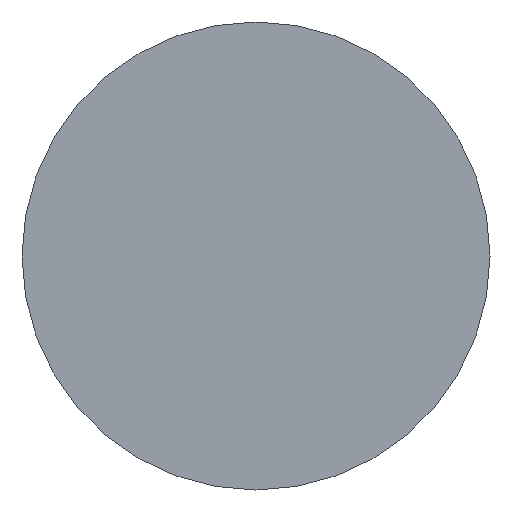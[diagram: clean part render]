
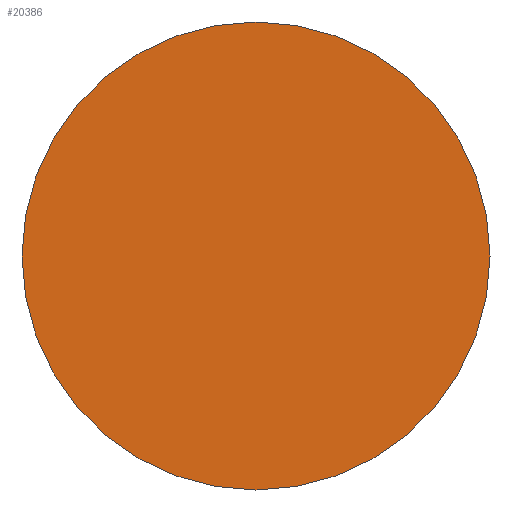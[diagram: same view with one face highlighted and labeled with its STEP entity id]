
A CAD part, left-side view. The second image highlights one B-rep face of the part: STEP entity #20386.
In plain terms, the highlighted planar face has unit normal (-1, 0, 0).
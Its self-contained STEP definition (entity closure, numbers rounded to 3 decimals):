
#8909 = CARTESIAN_POINT ( 'NONE',  ( -6.5, -9., -34.9 ) ) ;
#11173 = EDGE_LOOP ( 'NONE', ( #39391, #22967 ) ) ;
#12440 = CARTESIAN_POINT ( 'NONE',  ( -6.5, -9., 0. ) ) ;
#12667 = DIRECTION ( 'NONE',  ( 0., 0., 1. ) ) ;
#13841 = DIRECTION ( 'NONE',  ( -1., 0., 0. ) ) ;
#20386 = ADVANCED_FACE ( 'NONE', ( #22972 ), #34019, .T. ) ;
#21248 = CARTESIAN_POINT ( 'NONE',  ( -6.5, -9., 0. ) ) ;
#22743 = CARTESIAN_POINT ( 'NONE',  ( -6.5, -9., 0. ) ) ;
#22967 = ORIENTED_EDGE ( 'NONE', *, *, #35148, .T. ) ;
#22972 = FACE_OUTER_BOUND ( 'NONE', #11173, .T. ) ;
#25116 = CARTESIAN_POINT ( 'NONE',  ( -6.5, -9., 34.9 ) ) ;
#25637 = VERTEX_POINT ( 'NONE', #25116 ) ;
#28825 = DIRECTION ( 'NONE',  ( 0., 0., 1. ) ) ;
#28956 = CIRCLE ( 'NONE', #31912, 34.9 ) ;
#29305 = CIRCLE ( 'NONE', #37494, 34.9 ) ;
#30276 = DIRECTION ( 'NONE',  ( 0., 0., 1. ) ) ;
#30600 = EDGE_CURVE ( 'NONE', #25637, #32498, #28956, .T. ) ;
#31912 = AXIS2_PLACEMENT_3D ( 'NONE', #12440, #37166, #12667 ) ;
#32498 = VERTEX_POINT ( 'NONE', #8909 ) ;
#34019 = PLANE ( 'NONE',  #44424 ) ;
#35148 = EDGE_CURVE ( 'NONE', #32498, #25637, #29305, .T. ) ;
#37166 = DIRECTION ( 'NONE',  ( -1., 0., 0. ) ) ;
#37494 = AXIS2_PLACEMENT_3D ( 'NONE', #21248, #13841, #28825 ) ;
#39391 = ORIENTED_EDGE ( 'NONE', *, *, #30600, .T. ) ;
#44424 = AXIS2_PLACEMENT_3D ( 'NONE', #22743, #44712, #30276 ) ;
#44712 = DIRECTION ( 'NONE',  ( -1., 0., 0. ) ) ;
